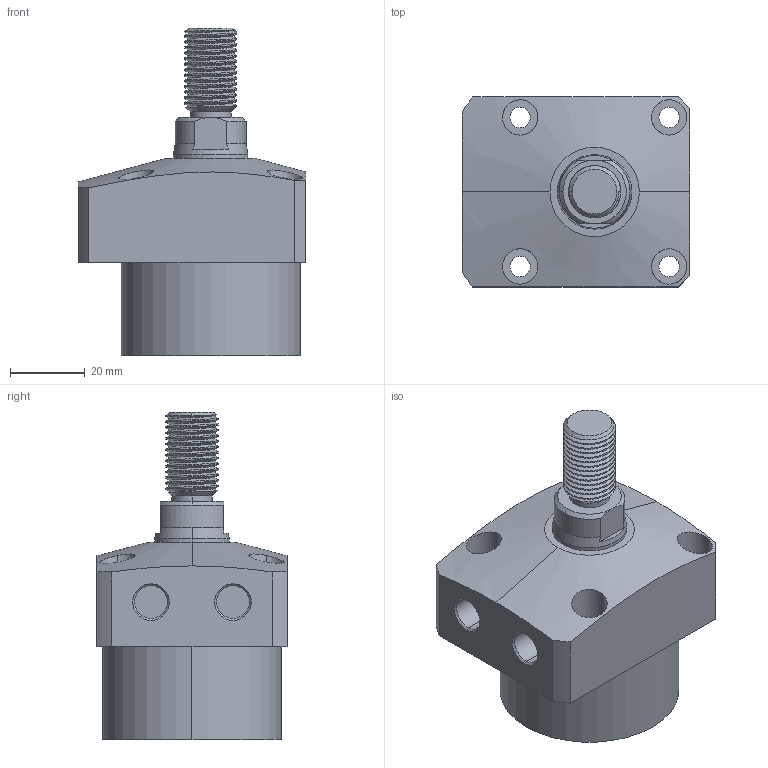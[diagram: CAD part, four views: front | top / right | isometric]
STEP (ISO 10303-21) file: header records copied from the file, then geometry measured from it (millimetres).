
FILE_DESCRIPTION (( 'STEP AP203' ), '1' );
FILE_NAME ('CLL-048CT-015.STEP', '2020-01-10T01:12:20', ( '' ), ( '' ), 'SwSTEP 2.0', 'SolidWorks 2015', '' );
FILE_SCHEMA (( 'CONFIG_CONTROL_DESIGN' ));
Length unit declared in the file: millimetre
Products named in the file (1): CLL-048CT-015
Bounding box: 61 x 51 x 88 mm (x, y, z)
Volume: 124261.4 mm3; surface area: 19743.3 mm2
Topology: 1 solids, 1 shells, 105 faces, 262 edges, 170 vertices
Faces by surface type: cylinder 63, plane 24, cone 16, bspline 2
Entity records: 5139 total; most frequent: CARTESIAN_POINT 2695, ORIENTED_EDGE 524, DIRECTION 464, EDGE_CURVE 262, AXIS2_PLACEMENT_3D 184, VERTEX_POINT 170, EDGE_LOOP 124, FACE_OUTER_BOUND 105
